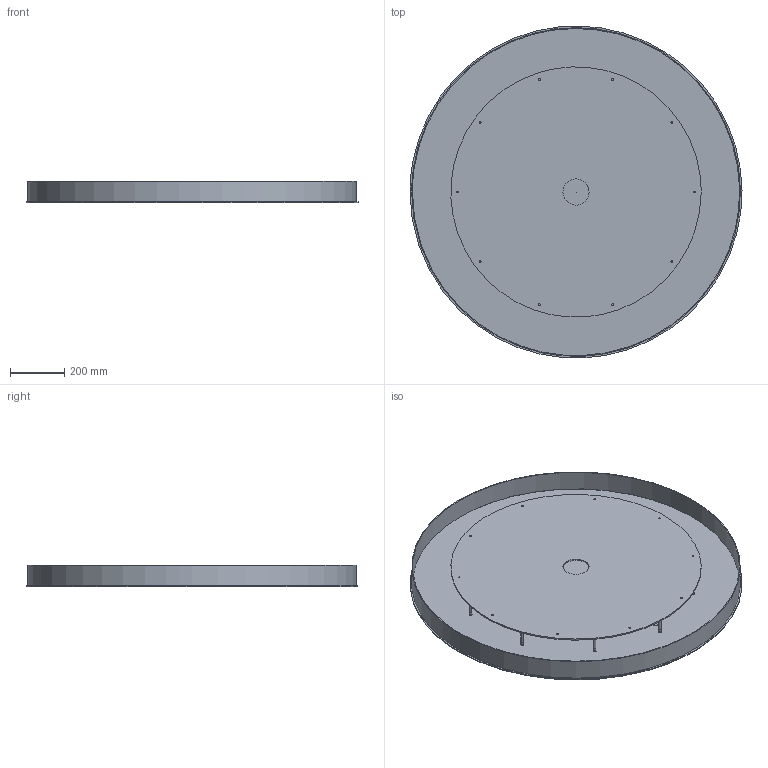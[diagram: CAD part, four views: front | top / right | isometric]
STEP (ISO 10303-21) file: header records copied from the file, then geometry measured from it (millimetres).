
FILE_DESCRIPTION(/* description */ (''),/* implementation_level */ '2;1');
FILE_NAME(/* name */ 'SkLO_Round_Canopy_48_MCR48_3D',/* time_stamp */ '2024-10-18T23:54:02+02:00',/* author */ (''),/* organization */ (''),/* preprocessor_version */ 'ST-DEVELOPER v16.5',/* originating_system */ 'Rhino 7.34',/* authorisation */ '');
FILE_SCHEMA (('CONFIG_CONTROL_DESIGN'));
Length unit declared in the file: millimetre
Products named in the file (1): Document
Bounding box: 1219.97 x 1219.32 x 78.3 mm (x, y, z)
Volume: 7671501.9 mm3; surface area: 4303757.8 mm2
Topology: 14 solids, 25 shells, 308 faces, 734 edges, 487 vertices
Faces by surface type: plane 119, cylinder 116, bspline 73
Full cylindrical faces by diameter (mm): 2.4 x9, 3 x12, 3.5 x6, 5.249 x11, 6 x21, 6.2 x20, 10 x10, 96 x1, 920 x1, 1202 x1, 1208 x1, 1220 x1
Entity records: 18726 total; most frequent: CARTESIAN_POINT 13962, ORIENTED_EDGE 1395, EDGE_CURVE 703, VERTEX_POINT 454, EDGE_LOOP 388, ADVANCED_FACE 308, FACE_OUTER_BOUND 308, B_SPLINE_CURVE_WITH_KNOTS 272
